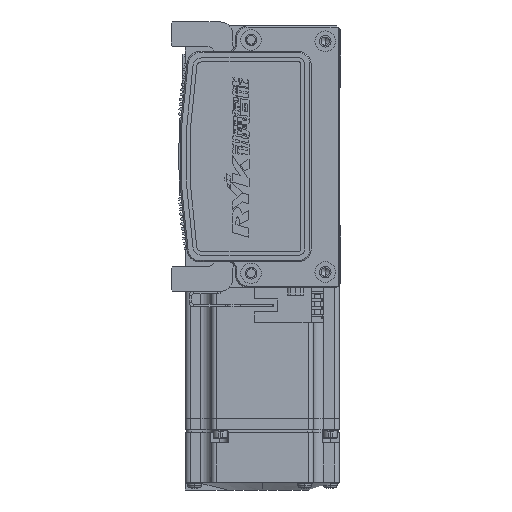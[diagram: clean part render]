
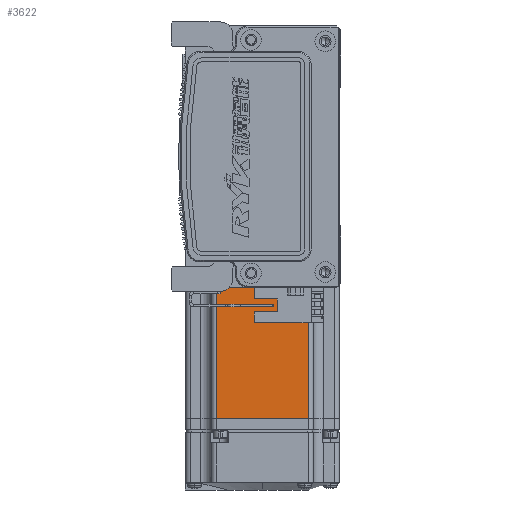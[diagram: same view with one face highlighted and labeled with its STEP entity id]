
A CAD part, left-side view. The second image highlights one B-rep face of the part: STEP entity #3622.
In plain terms, the highlighted planar face has unit normal (-1, 0, 0) as drawn and (0, 0, 1) by its records, which use the part's own axes.
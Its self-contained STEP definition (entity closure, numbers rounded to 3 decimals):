
#458 = CARTESIAN_POINT ( 'NONE',  ( -7.75, 18., 30. ) ) ;
#667 = VERTEX_POINT ( 'NONE', #15617 ) ;
#3622 = ADVANCED_FACE ( 'NONE', ( #49733 ), #40960, .T. ) ;
#5028 = DIRECTION ( 'NONE',  ( -1., 0., 0. ) ) ;
#5381 = LINE ( 'NONE', #9149, #40814 ) ;
#5543 = EDGE_CURVE ( 'NONE', #20189, #667, #27934, .T. ) ;
#6322 = CARTESIAN_POINT ( 'NONE',  ( -6.5, -25., 30. ) ) ;
#6818 = CARTESIAN_POINT ( 'NONE',  ( -70.95, 18., 30. ) ) ;
#8346 = ORIENTED_EDGE ( 'NONE', *, *, #32309, .T. ) ;
#8464 = DIRECTION ( 'NONE',  ( -1., 0., 0. ) ) ;
#9149 = CARTESIAN_POINT ( 'NONE',  ( -6.5, -18., 30. ) ) ;
#10551 = EDGE_LOOP ( 'NONE', ( #56041, #58747, #8346, #16997 ) ) ;
#10722 = LINE ( 'NONE', #37680, #28393 ) ;
#12127 = DIRECTION ( 'NONE',  ( 1., 0., 0. ) ) ;
#12846 = EDGE_CURVE ( 'NONE', #20189, #48560, #10722, .T. ) ;
#15617 = CARTESIAN_POINT ( 'NONE',  ( -7.75, -18., 30. ) ) ;
#16997 = ORIENTED_EDGE ( 'NONE', *, *, #19433, .F. ) ;
#19433 = EDGE_CURVE ( 'NONE', #667, #44977, #5381, .T. ) ;
#20189 = VERTEX_POINT ( 'NONE', #458 ) ;
#20525 = CARTESIAN_POINT ( 'NONE',  ( -70.95, 0., 30. ) ) ;
#27934 = LINE ( 'NONE', #48386, #39464 ) ;
#28393 = VECTOR ( 'NONE', #8464, 1000. ) ;
#32309 = EDGE_CURVE ( 'NONE', #48560, #44977, #45688, .T. ) ;
#33402 = CARTESIAN_POINT ( 'NONE',  ( -70.95, -18., 30. ) ) ;
#37680 = CARTESIAN_POINT ( 'NONE',  ( -6.5, 18., 30. ) ) ;
#39464 = VECTOR ( 'NONE', #57817, 1000. ) ;
#40814 = VECTOR ( 'NONE', #5028, 1000. ) ;
#40960 = PLANE ( 'NONE',  #41322 ) ;
#41322 = AXIS2_PLACEMENT_3D ( 'NONE', #6322, #41603, #12127 ) ;
#41603 = DIRECTION ( 'NONE',  ( 0., 0., 1. ) ) ;
#44977 = VERTEX_POINT ( 'NONE', #33402 ) ;
#45688 = LINE ( 'NONE', #20525, #51849 ) ;
#48386 = CARTESIAN_POINT ( 'NONE',  ( -7.75, 0., 30. ) ) ;
#48560 = VERTEX_POINT ( 'NONE', #6818 ) ;
#49733 = FACE_OUTER_BOUND ( 'NONE', #10551, .T. ) ;
#49767 = DIRECTION ( 'NONE',  ( 0., -1., 0. ) ) ;
#51849 = VECTOR ( 'NONE', #49767, 1000. ) ;
#56041 = ORIENTED_EDGE ( 'NONE', *, *, #5543, .F. ) ;
#57817 = DIRECTION ( 'NONE',  ( 0., -1., 0. ) ) ;
#58747 = ORIENTED_EDGE ( 'NONE', *, *, #12846, .T. ) ;
